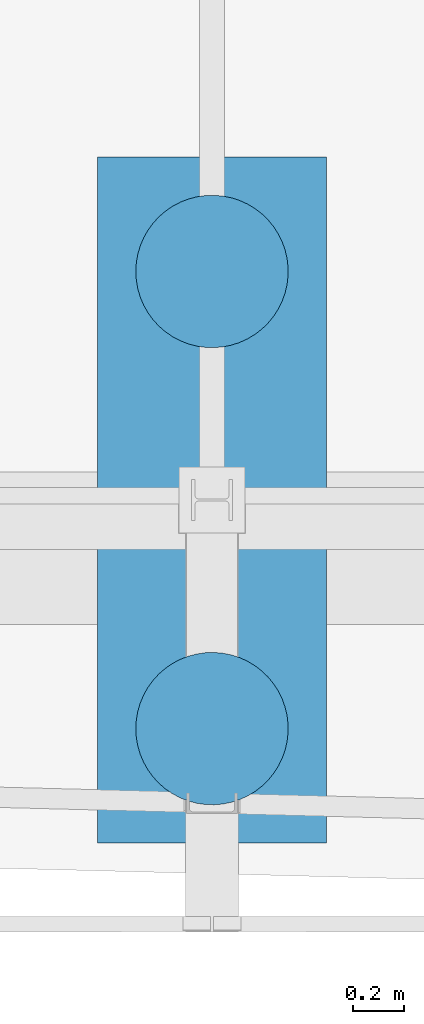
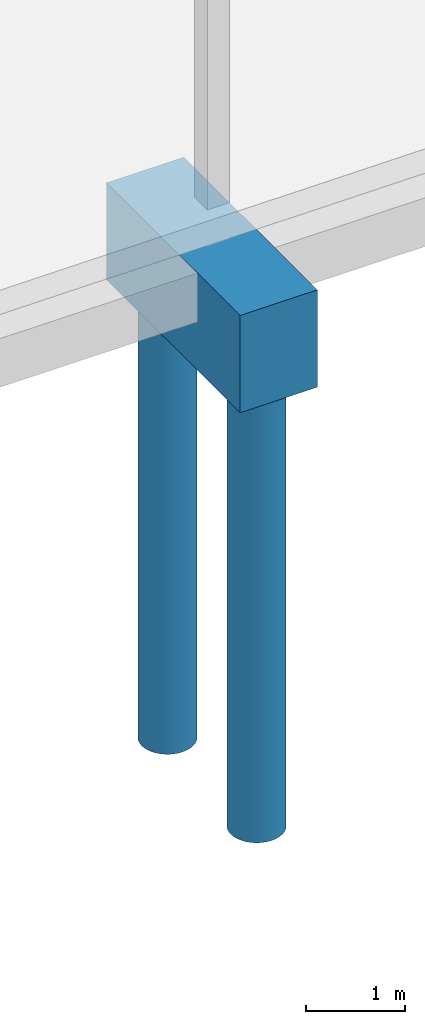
# One storey, part 12 of 82: 3 columns.
"""IFC2X3 building model written with IfcOpenShell, lengths in millimetres."""

from ifc_helpers import new_model, si_unit, frame, frame_2d, origin_with_axes, place, context, subcontext, project, spatial, rectangle, circle, extrude, material, type_object, element, save


model = new_model("IFC2X3")

# Units and contexts
model_context = context("Model", 3, precision=1e-05, world=origin_with_axes())
body_context = subcontext(model_context, "Body", "Model", "MODEL_VIEW")
ifc_project = project(units=[si_unit("LENGTHUNIT", "METRE", prefix="MILLI"), si_unit("AREAUNIT", "SQUARE_METRE"), si_unit("VOLUMEUNIT", "CUBIC_METRE"), si_unit("MASSUNIT", "GRAM", prefix="KILO"), si_unit("TIMEUNIT", "SECOND"), si_unit("PLANEANGLEUNIT", "RADIAN"), si_unit("SOLIDANGLEUNIT", "STERADIAN"), si_unit("THERMODYNAMICTEMPERATUREUNIT", "DEGREE_CELSIUS"), si_unit("LUMINOUSINTENSITYUNIT", "LUMEN")], contexts=[model_context])

# Site, building, storey
site_placement = place(None, origin_with_axes())
site = spatial("IfcSite", under=ifc_project, at=site_placement, Name="Undefined", CompositionType="ELEMENT")
building_placement = place(site_placement, origin_with_axes())
building = spatial("IfcBuilding", under=site, at=building_placement, Name="Undefined", CompositionType="ELEMENT")
storey_placement = place(building_placement, origin_with_axes())
storey = spatial("IfcBuildingStorey", under=building, at=storey_placement, Name="Undefined", CompositionType="ELEMENT", Elevation=0.0)

# Columns
ifc_material_1 = material(Name="CONCRETE/C30/37")
column_type_1 = type_object("IfcColumnType", Name="2700*900", PredefinedType="NOTDEFINED")
column_placement = place(storey_placement, frame((24375.0000000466, 0.209999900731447, -1650.0), z_axis=(0.0, 0.0, 1.0), x_axis=(1.0, 0.0, 0.0)))
element("IfcColumn", 1, at=column_placement, inside=storey, type_object=column_type_1, material=ifc_material_1, Name="SEMELLE", ObjectType="2700*900", context=body_context, shape_type="SweptSolid", body=[
    extrude(rectangle(XDim=900.0, YDim=2700.0, at=frame_2d((5.17284206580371e-08, 4.49290382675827e-10), x_axis=(1.0, 0.0))), frame((0.0, 0.0, 1200.0), z_axis=(0.0, -6.50000002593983e-08, -0.999999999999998), x_axis=(-1.0, 0.0, 0.0)), (0.0, 0.0, 1.0), 1200.0),
])
ifc_material_2 = material(Name="CONCRETE/C25/30")
column_type_2 = type_object("IfcColumnType", Name="D600", PredefinedType="NOTDEFINED")
for number, where, z_axis, x_axis in (
    (2, (24375.0000000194, -900.000000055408, -7175.0), (0.0, 0.0, 1.0), (1.0, 0.0, 0.0)),
    (3, (24375.0000000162, 899.999999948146, -7175.0), (0.0, 0.0, 1.0), (1.0, 0.0, 0.0)),
):
    element("IfcColumn", number, at=place(storey_placement, frame(where, z_axis=z_axis, x_axis=x_axis)), inside=storey, type_object=column_type_2, material=ifc_material_2, Name="PIEU", ObjectType="D600", context=body_context, shape_type="SweptSolid", body=[
        extrude(circle(Radius=300.0, at=frame_2d((5.17284206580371e-08, 4.49290382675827e-10), x_axis=(1.0, 0.0))), frame((0.0, 0.0, 5750.0), z_axis=(0.0, -6.50000002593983e-08, -0.999999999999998), x_axis=(-1.0, 0.0, 0.0)), (0.0, 0.0, 1.0), 5750.0),
    ])

save(model, "model.ifc")
